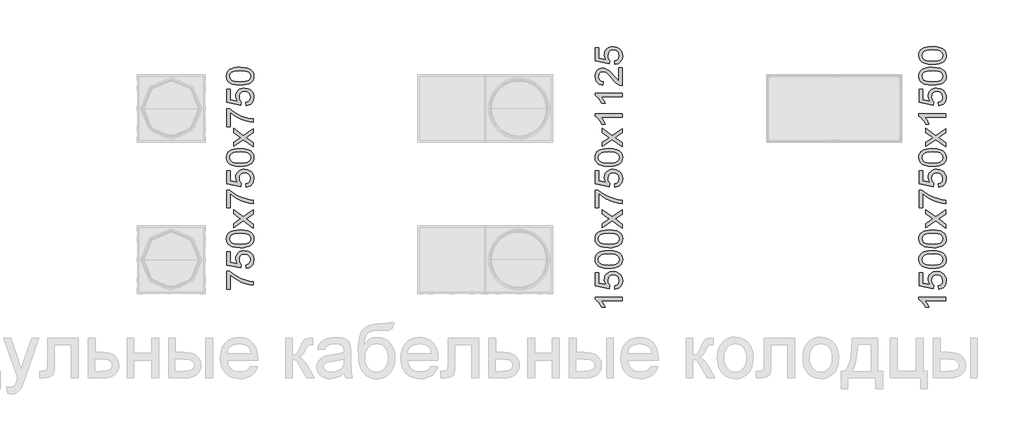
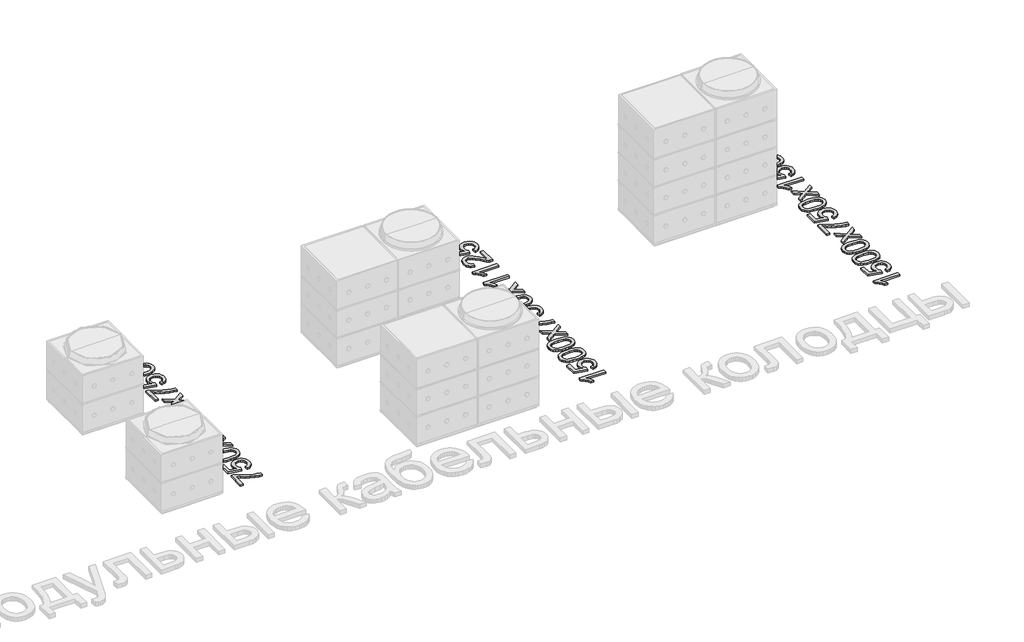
# One storey, part 3 of 3: 3 proxies.
"""IFC4 building model written with IfcOpenShell, lengths in millimetres."""

from ifc_helpers import new_model, si_unit, origin, origin_with_axes, place, context, project, spatial, polyline, outline, extrude, element, save

model = new_model("IFC4")

# Units and contexts
model_context = context("Model", 3, world=origin())
ifc_project = project(units=[si_unit("LENGTHUNIT", "METRE", prefix="MILLI")], contexts=[model_context])

# Site, building, storey
site = spatial("IfcSite", under=ifc_project)
building = spatial("IfcBuilding", under=site)
storey = spatial("IfcBuildingStorey", under=building, Name="Этаж 01", Elevation=0.0)

# Proxies
placement = place(None, origin())
element("IfcBuildingElementProxy", 1, Name="300 мм Arial 2", ObjectType="300 мм Arial 2", at=placement, inside=storey, context=model_context, shape_type="SweptSolid", body=[
    extrude(outline(polyline([(4874.6850037, -5520.3300285), (4837.0138874, -5520.3300285), (4837.0138874, -5322.5566679), (4867.4745166, -5322.5566679), (4903.1498731, -5350.7456258), (4948.5189202, -5378.6586722), (4999.4429853, -5403.2791747), (5051.7833962, -5421.590501), (5090.9444346, -5430.5668217), (5133.6739283, -5435.5700168), (5133.6739283, -5473.2411331), (5094.8439837, -5469.16684), (5048.6931875, -5458.2683359), (4999.7740791, -5440.8399264), (4952.6391985, -5417.1759171), (4910.0292664, -5389.5479792), (4874.6850037, -5360.2277842), (4874.6850037, -5520.3300285)])), origin_with_axes(), (0.0, 0.0, 1.0), 20.0),
    extrude(outline(polyline([(5053.6228062, -5289.5944411), (5048.9139166, -5251.9233248), (5071.5294623, -5245.0071433), (5087.7254671, -5232.9406139), (5097.465143, -5215.7789188), (5100.7117016, -5193.5772404), (5096.1959501, -5166.574702), (5082.6486956, -5146.3411922), (5061.6334366, -5133.7044457), (5034.7136716, -5129.4921968), (5009.3666022, -5133.4377312), (4989.979221, -5145.2743344), (4977.6735683, -5165.0939769), (4973.571684, -5192.9886292), (4975.2087589, -5211.2631673), (4980.1199836, -5226.0612206), (4997.1161317, -5247.2144353), (4992.4072422, -5284.8855516), (4837.0138874, -5251.9233248), (4837.0138874, -5105.9477492), (4874.6850037, -5105.9477492), (4874.6850037, -5221.4626956), (4957.6791818, -5237.575927), (4941.3452213, -5210.6653591), (4935.9005677, -5182.4672041), (4937.5882264, -5164.1213889), (4942.6512023, -5147.2700943), (4951.0894956, -5131.9133202), (4962.9031062, -5118.0510668), (4977.3700656, -5106.5754478), (4993.7684056, -5098.3785771), (5012.098126, -5093.4604547), (5032.3592269, -5091.8210805), (5070.0303432, -5097.7255866), (5086.8241563, -5105.1062191), (5102.2568059, -5115.4391046), (5118.0619362, -5131.0924835), (5129.3513149, -5149.3578246), (5136.1249421, -5170.2351278), (5138.3828179, -5193.7243932), (5132.5794794, -5230.7241249), (5125.3253063, -5246.4027956), (5115.169464, -5260.2006697), (5102.6177902, -5271.6808872), (5088.1761226, -5280.4065883), (5053.6228062, -5289.5944411)])), origin_with_axes(), (0.0, 0.0, 1.0), 20.0),
    extrude(outline(polyline([(4985.4174843, -5058.8588538), (4937.1789577, -5056.0905418), (4898.707698, -5047.7856057), (4869.4150942, -5034.0268191), (4848.7125349, -5014.8969553), (4836.4068821, -4990.2580587), (4832.3049979, -4959.9721735), (4834.7330191, -4936.7588196), (4842.0170826, -4915.9734868), (4853.8720799, -4898.5910626), (4870.0129024, -4885.586434), (4890.3015944, -4875.7639848), (4914.6002002, -4867.9280983), (4945.4563026, -4862.7961444), (4985.4174843, -4861.0854932), (5033.3800994, -4863.826214), (5071.7593885, -4872.0483766), (5101.0795836, -4885.7243898), (5121.8649163, -4904.8266624), (5134.2533425, -4929.5207413), (5138.3828179, -4959.9721735), (5136.5893931, -4980.720718), (5131.209119, -4999.1148178), (5122.2419953, -5015.1544727), (5109.6880223, -5028.839683), (5086.9943017, -5041.9730702), (5058.7179718, -5051.3540611), (5024.8590327, -5056.9826556), (4985.4174843, -5058.8588538)]), holes=[polyline([(4985.3439079, -5021.1877375), (5044.6005003, -5016.7731535), (5064.8684989, -5011.2549236), (5078.8962993, -5003.5294017), (5095.257851, -4983.8109268), (5100.7117016, -4959.9721735), (5095.2394569, -4936.1334202), (5078.8227229, -4916.4149452), (5064.7719299, -4908.6894233), (5044.5085298, -4903.1711934), (4985.3439079, -4898.7566095), (4927.4208877, -4903.0240406), (4907.2195677, -4908.3583295), (4892.8583743, -4915.826334), (4875.6966792, -4935.5080208), (4869.9761142, -4960.4136319), (4875.0160975, -4983.9948678), (4890.1360475, -5002.9407905), (4905.7710323, -5010.9238298), (4926.8506706, -5016.6260007), (4985.3439079, -5021.1877375)])]), origin_with_axes(), (0.0, 0.0, 1.0), 20.0),
    extrude(outline(polyline([(5133.6739283, -4842.249935), (5022.426413, -4761.7573545), (4912.35612, -4837.5410455), (4912.35612, -4792.2179837), (4965.3311273, -4755.6505133), (4990.347103, -4738.5807888), (4969.8928641, -4723.7919326), (4912.35612, -4682.1476907), (4912.35612, -4636.8246289), (5022.426413, -4716.4342927), (5133.6739283, -4639.7676849), (5133.6739283, -4685.0907467), (5066.7929816, -4731.2231489), (5054.5792994, -4739.6844348), (5133.6739283, -4796.9268732), (5133.6739283, -4842.249935)])), origin_with_axes(), (0.0, 0.0, 1.0), 20.0),
    extrude(outline(polyline([(4874.6850037, -4616.2232372), (4837.0138874, -4616.2232372), (4837.0138874, -4418.4498766), (4867.4745166, -4418.4498766), (4903.1498731, -4446.6388344), (4948.5189202, -4474.5518808), (4999.4429853, -4499.1723834), (5051.7833962, -4517.4837097), (5090.9444346, -4526.4600304), (5133.6739283, -4531.4632255), (5133.6739283, -4569.1343418), (5094.8439837, -4565.0600487), (5048.6931875, -4554.1615446), (4999.7740791, -4536.7331351), (4952.6391985, -4513.0691257), (4910.0292664, -4485.4411879), (4874.6850037, -4456.1209929), (4874.6850037, -4616.2232372)])), origin_with_axes(), (0.0, 0.0, 1.0), 20.0),
    extrude(outline(polyline([(5053.6228062, -4385.4876498), (5048.9139166, -4347.8165335), (5071.5294623, -4340.900352), (5087.7254671, -4328.8338225), (5097.465143, -4311.6721275), (5100.7117016, -4289.4704491), (5096.1959501, -4262.4679106), (5082.6486956, -4242.2344009), (5061.6334366, -4229.5976543), (5034.7136716, -4225.3854055), (5009.3666022, -4229.3309399), (4989.979221, -4241.1675431), (4977.6735683, -4260.9871856), (4973.571684, -4288.8818379), (4975.2087589, -4307.156376), (4980.1199836, -4321.9544292), (4997.1161317, -4343.107644), (4992.4072422, -4380.7787603), (4837.0138874, -4347.8165335), (4837.0138874, -4201.8409578), (4874.6850037, -4201.8409578), (4874.6850037, -4317.3559043), (4957.6791818, -4333.4691357), (4941.3452213, -4306.5585677), (4935.9005677, -4278.3604128), (4937.5882264, -4260.0145976), (4942.6512023, -4243.1633029), (4951.0894956, -4227.8065289), (4962.9031062, -4213.9442754), (4977.3700656, -4202.4686565), (4993.7684056, -4194.2717858), (5012.098126, -4189.3536633), (5032.3592269, -4187.7142892), (5070.0303432, -4193.6187952), (5086.8241563, -4200.9994277), (5102.2568059, -4211.3323133), (5118.0619362, -4226.9856922), (5129.3513149, -4245.2510332), (5136.1249421, -4266.1283365), (5138.3828179, -4289.6176019), (5132.5794794, -4326.6173335), (5125.3253063, -4342.2960043), (5115.169464, -4356.0938784), (5102.6177902, -4367.5740959), (5088.1761226, -4376.299797), (5053.6228062, -4385.4876498)])), origin_with_axes(), (0.0, 0.0, 1.0), 20.0),
    extrude(outline(polyline([(4985.4174843, -4154.7520624), (4937.1789577, -4151.9837504), (4898.707698, -4143.6788144), (4869.4150942, -4129.9200277), (4848.7125349, -4110.790164), (4836.4068821, -4086.1512674), (4832.3049979, -4055.8653821), (4834.7330191, -4032.6520282), (4842.0170826, -4011.8666955), (4853.8720799, -3994.4842712), (4870.0129024, -3981.4796427), (4890.3015944, -3971.6571934), (4914.6002002, -3963.8213069), (4945.4563026, -3958.6893531), (4985.4174843, -3956.9787018), (5033.3800994, -3959.7194227), (5071.7593885, -3967.9415853), (5101.0795836, -3981.6175984), (5121.8649163, -4000.719871), (5134.2533425, -4025.41395), (5138.3828179, -4055.8653821), (5136.5893931, -4076.6139266), (5131.209119, -4095.0080264), (5122.2419953, -4111.0476814), (5109.6880223, -4124.7328916), (5086.9943017, -4137.8662788), (5058.7179718, -4147.2472697), (5024.8590327, -4152.8758642), (4985.4174843, -4154.7520624)]), holes=[polyline([(4985.3439079, -4117.0809461), (5044.6005003, -4112.6663622), (5064.8684989, -4107.1481322), (5078.8962993, -4099.4226103), (5095.257851, -4079.7041354), (5100.7117016, -4055.8653821), (5095.2394569, -4032.0266288), (5078.8227229, -4012.3081539), (5064.7719299, -4004.582632), (5044.5085298, -3999.0644021), (4985.3439079, -3994.6498181), (4927.4208877, -3998.9172493), (4907.2195677, -4004.2515382), (4892.8583743, -4011.7195427), (4875.6966792, -4031.4012294), (4869.9761142, -4056.3068405), (4875.0160975, -4079.8880764), (4890.1360475, -4098.8339992), (4905.7710323, -4106.8170385), (4926.8506706, -4112.5192094), (4985.3439079, -4117.0809461)])]), origin_with_axes(), (0.0, 0.0, 1.0), 20.0),
    extrude(outline(polyline([(5133.6739283, -3938.1431437), (5022.426413, -3857.6505631), (4912.35612, -3933.4342541), (4912.35612, -3888.1111923), (4965.3311273, -3851.543722), (4990.347103, -3834.4739974), (4969.8928641, -3819.6851412), (4912.35612, -3778.0408994), (4912.35612, -3732.7178376), (5022.426413, -3812.3275013), (5133.6739283, -3735.6608935), (5133.6739283, -3780.9839553), (5066.7929816, -3827.1163575), (5054.5792994, -3835.5776434), (5133.6739283, -3892.8200819), (5133.6739283, -3938.1431437)])), origin_with_axes(), (0.0, 0.0, 1.0), 20.0),
    extrude(outline(polyline([(4874.6850037, -3712.1164458), (4837.0138874, -3712.1164458), (4837.0138874, -3514.3430852), (4867.4745166, -3514.3430852), (4903.1498731, -3542.5320431), (4948.5189202, -3570.4450895), (4999.4429853, -3595.065592), (5051.7833962, -3613.3769183), (5090.9444346, -3622.353239), (5133.6739283, -3627.3564341), (5133.6739283, -3665.0275504), (5094.8439837, -3660.9532573), (5048.6931875, -3650.0547532), (4999.7740791, -3632.6263437), (4952.6391985, -3608.9623344), (4910.0292664, -3581.3343965), (4874.6850037, -3552.0142015), (4874.6850037, -3712.1164458)])), origin_with_axes(), (0.0, 0.0, 1.0), 20.0),
    extrude(outline(polyline([(5053.6228062, -3481.3808585), (5048.9139166, -3443.7097421), (5071.5294623, -3436.7935606), (5087.7254671, -3424.7270312), (5097.465143, -3407.5653361), (5100.7117016, -3385.3636577), (5096.1959501, -3358.3611193), (5082.6486956, -3338.1276095), (5061.6334366, -3325.490863), (5034.7136716, -3321.2786142), (5009.3666022, -3325.2241485), (4989.979221, -3337.0607517), (4977.6735683, -3356.8803942), (4973.571684, -3384.7750465), (4975.2087589, -3403.0495846), (4980.1199836, -3417.8476379), (4997.1161317, -3439.0008526), (4992.4072422, -3476.6719689), (4837.0138874, -3443.7097421), (4837.0138874, -3297.7341665), (4874.6850037, -3297.7341665), (4874.6850037, -3413.2491129), (4957.6791818, -3429.3623443), (4941.3452213, -3402.4517764), (4935.9005677, -3374.2536215), (4937.5882264, -3355.9078062), (4942.6512023, -3339.0565116), (4951.0894956, -3323.6997375), (4962.9031062, -3309.8374841), (4977.3700656, -3298.3618651), (4993.7684056, -3290.1649944), (5012.098126, -3285.246872), (5032.3592269, -3283.6074978), (5070.0303432, -3289.5120039), (5086.8241563, -3296.8926364), (5102.2568059, -3307.2255219), (5118.0619362, -3322.8789008), (5129.3513149, -3341.1442419), (5136.1249421, -3362.0215451), (5138.3828179, -3385.5108105), (5132.5794794, -3422.5105422), (5125.3253063, -3438.189213), (5115.169464, -3451.987087), (5102.6177902, -3463.4673045), (5088.1761226, -3472.1930056), (5053.6228062, -3481.3808585)])), origin_with_axes(), (0.0, 0.0, 1.0), 20.0),
    extrude(outline(polyline([(4985.4174843, -3250.6452711), (4937.1789577, -3247.8769591), (4898.707698, -3239.572023), (4869.4150942, -3225.8132364), (4848.7125349, -3206.6833727), (4836.4068821, -3182.044476), (4832.3049979, -3151.7585908), (4834.7330191, -3128.5452369), (4842.0170826, -3107.7599042), (4853.8720799, -3090.3774799), (4870.0129024, -3077.3728513), (4890.3015944, -3067.5504021), (4914.6002002, -3059.7145156), (4945.4563026, -3054.5825617), (4985.4174843, -3052.8719105), (5033.3800994, -3055.6126313), (5071.7593885, -3063.8347939), (5101.0795836, -3077.5108071), (5121.8649163, -3096.6130797), (5134.2533425, -3121.3071586), (5138.3828179, -3151.7585908), (5136.5893931, -3172.5071353), (5131.209119, -3190.9012351), (5122.2419953, -3206.9408901), (5109.6880223, -3220.6261003), (5086.9943017, -3233.7594875), (5058.7179718, -3243.1404784), (5024.8590327, -3248.7690729), (4985.4174843, -3250.6452711)]), holes=[polyline([(4985.3439079, -3212.9741548), (5044.6005003, -3208.5595708), (5064.8684989, -3203.0413409), (5078.8962993, -3195.315819), (5095.257851, -3175.5973441), (5100.7117016, -3151.7585908), (5095.2394569, -3127.9198375), (5078.8227229, -3108.2013625), (5064.7719299, -3100.4758406), (5044.5085298, -3094.9576107), (4985.3439079, -3090.5430268), (4927.4208877, -3094.8104579), (4907.2195677, -3100.1447469), (4892.8583743, -3107.6127514), (4875.6966792, -3127.2944381), (4869.9761142, -3152.2000492), (4875.0160975, -3175.7812851), (4890.1360475, -3194.7272078), (4905.7710323, -3202.7102471), (4926.8506706, -3208.412418), (4985.3439079, -3212.9741548)])]), origin_with_axes(), (0.0, 0.0, 1.0), 20.0),
])
element("IfcBuildingElementProxy", 2, Name="300 мм Arial 2", ObjectType="300 мм Arial 2", at=placement, inside=storey, context=model_context, shape_type="SweptSolid", body=[
    extrude(outline(polyline([(9233.6739283, -5609.7989297), (9233.6739283, -5647.4700461), (8998.8180626, -5647.4700461), (9024.2387085, -5683.1545996), (9043.2582076, -5722.8122787), (9007.6472305, -5722.8122787), (8991.5523932, -5693.2253692), (8972.4041354, -5667.5931912), (8952.0418669, -5647.3872726), (8932.3049979, -5634.0791414), (8932.3049979, -5609.7989297), (9233.6739283, -5609.7989297)])), origin_with_axes(), (0.0, 0.0, 1.0), 20.0),
    extrude(outline(polyline([(9153.6228062, -5520.3300285), (9148.9139166, -5482.6589122), (9171.5294623, -5475.7427307), (9187.7254671, -5463.6762013), (9197.465143, -5446.5145062), (9200.7117016, -5424.3128278), (9196.1959501, -5397.3102893), (9182.6486956, -5377.0767796), (9161.6334366, -5364.4400331), (9134.7136716, -5360.2277842), (9109.3666022, -5364.1733186), (9089.979221, -5376.0099218), (9077.6735683, -5395.8295643), (9073.571684, -5423.7242166), (9075.2087589, -5441.9987547), (9080.1199836, -5456.796808), (9097.1161317, -5477.9500227), (9092.4072422, -5515.621139), (8937.0138874, -5482.6589122), (8937.0138874, -5336.6833365), (8974.6850037, -5336.6833365), (8974.6850037, -5452.198283), (9057.6791818, -5468.3115144), (9041.3452213, -5441.4009465), (9035.9005677, -5413.2027915), (9037.5882264, -5394.8569763), (9042.6512023, -5378.0056816), (9051.0894956, -5362.6489076), (9062.9031062, -5348.7866542), (9077.3700656, -5337.3110352), (9093.7684056, -5329.1141645), (9112.098126, -5324.1960421), (9132.3592269, -5322.5566679), (9170.0303432, -5328.4611739), (9186.8241563, -5335.8418065), (9202.2568059, -5346.174692), (9218.0619362, -5361.8280709), (9229.3513149, -5380.093412), (9236.1249421, -5400.9707152), (9238.3828179, -5424.4599806), (9232.5794794, -5461.4597122), (9225.3253063, -5477.138383), (9215.169464, -5490.9362571), (9202.6177902, -5502.4164746), (9188.1761226, -5511.1421757), (9153.6228062, -5520.3300285)])), origin_with_axes(), (0.0, 0.0, 1.0), 20.0),
    extrude(outline(polyline([(9085.4174843, -5289.5944411), (9037.1789577, -5286.8261291), (8998.707698, -5278.5211931), (8969.4150942, -5264.7624065), (8948.7125349, -5245.6325427), (8936.4068821, -5220.9936461), (8932.3049979, -5190.7077608), (8934.7330191, -5167.4944069), (8942.0170826, -5146.7090742), (8953.8720799, -5129.3266499), (8970.0129024, -5116.3220214), (8990.3015944, -5106.4995721), (9014.6002002, -5098.6636856), (9045.4563026, -5093.5317318), (9085.4174843, -5091.8210805), (9133.3800994, -5094.5618014), (9171.7593885, -5102.783964), (9201.0795836, -5116.4599772), (9221.8649163, -5135.5622498), (9234.2533425, -5160.2563287), (9238.3828179, -5190.7077608), (9236.5893931, -5211.4563054), (9231.209119, -5229.8504051), (9222.2419953, -5245.8900601), (9209.6880223, -5259.5752703), (9186.9943017, -5272.7086576), (9158.7179718, -5282.0896484), (9124.8590327, -5287.718243), (9085.4174843, -5289.5944411)]), holes=[polyline([(9085.3439079, -5251.9233248), (9144.6005003, -5247.5087409), (9164.8684989, -5241.990511), (9178.8962993, -5234.2649891), (9195.257851, -5214.5465141), (9200.7117016, -5190.7077608), (9195.2394569, -5166.8690076), (9178.8227229, -5147.1505326), (9164.7719299, -5139.4250107), (9144.5085298, -5133.9067808), (9085.3439079, -5129.4921968), (9027.4208877, -5133.759628), (9007.2195677, -5139.0939169), (8992.8583743, -5146.5619214), (8975.6966792, -5166.2436082), (8969.9761142, -5191.1492192), (8975.0160975, -5214.7304551), (8990.1360475, -5233.6763779), (9005.7710323, -5241.6594172), (9026.8506706, -5247.3615881), (9085.3439079, -5251.9233248)])]), origin_with_axes(), (0.0, 0.0, 1.0), 20.0),
    extrude(outline(polyline([(9085.4174843, -5058.8588538), (9037.1789577, -5056.0905418), (8998.707698, -5047.7856057), (8969.4150942, -5034.0268191), (8948.7125349, -5014.8969553), (8936.4068821, -4990.2580587), (8932.3049979, -4959.9721735), (8934.7330191, -4936.7588196), (8942.0170826, -4915.9734868), (8953.8720799, -4898.5910626), (8970.0129024, -4885.586434), (8990.3015944, -4875.7639848), (9014.6002002, -4867.9280983), (9045.4563026, -4862.7961444), (9085.4174843, -4861.0854932), (9133.3800994, -4863.826214), (9171.7593885, -4872.0483766), (9201.0795836, -4885.7243898), (9221.8649163, -4904.8266624), (9234.2533425, -4929.5207413), (9238.3828179, -4959.9721735), (9236.5893931, -4980.720718), (9231.209119, -4999.1148178), (9222.2419953, -5015.1544727), (9209.6880223, -5028.839683), (9186.9943017, -5041.9730702), (9158.7179718, -5051.3540611), (9124.8590327, -5056.9826556), (9085.4174843, -5058.8588538)]), holes=[polyline([(9085.3439079, -5021.1877375), (9144.6005003, -5016.7731535), (9164.8684989, -5011.2549236), (9178.8962993, -5003.5294017), (9195.257851, -4983.8109268), (9200.7117016, -4959.9721735), (9195.2394569, -4936.1334202), (9178.8227229, -4916.4149452), (9164.7719299, -4908.6894233), (9144.5085298, -4903.1711934), (9085.3439079, -4898.7566095), (9027.4208877, -4903.0240406), (9007.2195677, -4908.3583295), (8992.8583743, -4915.826334), (8975.6966792, -4935.5080208), (8969.9761142, -4960.4136319), (8975.0160975, -4983.9948678), (8990.1360475, -5002.9407905), (9005.7710323, -5010.9238298), (9026.8506706, -5016.6260007), (9085.3439079, -5021.1877375)])]), origin_with_axes(), (0.0, 0.0, 1.0), 20.0),
    extrude(outline(polyline([(9233.6739283, -4842.249935), (9122.426413, -4761.7573545), (9012.35612, -4837.5410455), (9012.35612, -4792.2179837), (9065.3311273, -4755.6505133), (9090.347103, -4738.5807888), (9069.8928641, -4723.7919326), (9012.35612, -4682.1476907), (9012.35612, -4636.8246289), (9122.426413, -4716.4342927), (9233.6739283, -4639.7676849), (9233.6739283, -4685.0907467), (9166.7929816, -4731.2231489), (9154.5792994, -4739.6844348), (9233.6739283, -4796.9268732), (9233.6739283, -4842.249935)])), origin_with_axes(), (0.0, 0.0, 1.0), 20.0),
    extrude(outline(polyline([(8974.6850037, -4616.2232372), (8937.0138874, -4616.2232372), (8937.0138874, -4418.4498766), (8967.4745166, -4418.4498766), (9003.1498731, -4446.6388344), (9048.5189202, -4474.5518808), (9099.4429853, -4499.1723834), (9151.7833962, -4517.4837097), (9190.9444346, -4526.4600304), (9233.6739283, -4531.4632255), (9233.6739283, -4569.1343418), (9194.8439837, -4565.0600487), (9148.6931875, -4554.1615446), (9099.7740791, -4536.7331351), (9052.6391985, -4513.0691257), (9010.0292664, -4485.4411879), (8974.6850037, -4456.1209929), (8974.6850037, -4616.2232372)])), origin_with_axes(), (0.0, 0.0, 1.0), 20.0),
    extrude(outline(polyline([(9153.6228062, -4385.4876498), (9148.9139166, -4347.8165335), (9171.5294623, -4340.900352), (9187.7254671, -4328.8338225), (9197.465143, -4311.6721275), (9200.7117016, -4289.4704491), (9196.1959501, -4262.4679106), (9182.6486956, -4242.2344009), (9161.6334366, -4229.5976543), (9134.7136716, -4225.3854055), (9109.3666022, -4229.3309399), (9089.979221, -4241.1675431), (9077.6735683, -4260.9871856), (9073.571684, -4288.8818379), (9075.2087589, -4307.156376), (9080.1199836, -4321.9544292), (9097.1161317, -4343.107644), (9092.4072422, -4380.7787603), (8937.0138874, -4347.8165335), (8937.0138874, -4201.8409578), (8974.6850037, -4201.8409578), (8974.6850037, -4317.3559043), (9057.6791818, -4333.4691357), (9041.3452213, -4306.5585677), (9035.9005677, -4278.3604128), (9037.5882264, -4260.0145976), (9042.6512023, -4243.1633029), (9051.0894956, -4227.8065289), (9062.9031062, -4213.9442754), (9077.3700656, -4202.4686565), (9093.7684056, -4194.2717858), (9112.098126, -4189.3536633), (9132.3592269, -4187.7142892), (9170.0303432, -4193.6187952), (9186.8241563, -4200.9994277), (9202.2568059, -4211.3323133), (9218.0619362, -4226.9856922), (9229.3513149, -4245.2510332), (9236.1249421, -4266.1283365), (9238.3828179, -4289.6176019), (9232.5794794, -4326.6173335), (9225.3253063, -4342.2960043), (9215.169464, -4356.0938784), (9202.6177902, -4367.5740959), (9188.1761226, -4376.299797), (9153.6228062, -4385.4876498)])), origin_with_axes(), (0.0, 0.0, 1.0), 20.0),
    extrude(outline(polyline([(9085.4174843, -4154.7520624), (9037.1789577, -4151.9837504), (8998.707698, -4143.6788144), (8969.4150942, -4129.9200277), (8948.7125349, -4110.790164), (8936.4068821, -4086.1512674), (8932.3049979, -4055.8653821), (8934.7330191, -4032.6520282), (8942.0170826, -4011.8666955), (8953.8720799, -3994.4842712), (8970.0129024, -3981.4796427), (8990.3015944, -3971.6571934), (9014.6002002, -3963.8213069), (9045.4563026, -3958.6893531), (9085.4174843, -3956.9787018), (9133.3800994, -3959.7194227), (9171.7593885, -3967.9415853), (9201.0795836, -3981.6175984), (9221.8649163, -4000.719871), (9234.2533425, -4025.41395), (9238.3828179, -4055.8653821), (9236.5893931, -4076.6139266), (9231.209119, -4095.0080264), (9222.2419953, -4111.0476814), (9209.6880223, -4124.7328916), (9186.9943017, -4137.8662788), (9158.7179718, -4147.2472697), (9124.8590327, -4152.8758642), (9085.4174843, -4154.7520624)]), holes=[polyline([(9085.3439079, -4117.0809461), (9144.6005003, -4112.6663622), (9164.8684989, -4107.1481322), (9178.8962993, -4099.4226103), (9195.257851, -4079.7041354), (9200.7117016, -4055.8653821), (9195.2394569, -4032.0266288), (9178.8227229, -4012.3081539), (9164.7719299, -4004.582632), (9144.5085298, -3999.0644021), (9085.3439079, -3994.6498181), (9027.4208877, -3998.9172493), (9007.2195677, -4004.2515382), (8992.8583743, -4011.7195427), (8975.6966792, -4031.4012294), (8969.9761142, -4056.3068405), (8975.0160975, -4079.8880764), (8990.1360475, -4098.8339992), (9005.7710323, -4106.8170385), (9026.8506706, -4112.5192094), (9085.3439079, -4117.0809461)])]), origin_with_axes(), (0.0, 0.0, 1.0), 20.0),
    extrude(outline(polyline([(9233.6739283, -3938.1431437), (9122.426413, -3857.6505631), (9012.35612, -3933.4342541), (9012.35612, -3888.1111923), (9065.3311273, -3851.543722), (9090.347103, -3834.4739974), (9069.8928641, -3819.6851412), (9012.35612, -3778.0408994), (9012.35612, -3732.7178376), (9122.426413, -3812.3275013), (9233.6739283, -3735.6608935), (9233.6739283, -3780.9839553), (9166.7929816, -3827.1163575), (9154.5792994, -3835.5776434), (9233.6739283, -3892.8200819), (9233.6739283, -3938.1431437)])), origin_with_axes(), (0.0, 0.0, 1.0), 20.0),
    extrude(outline(polyline([(9233.6739283, -3570.8497597), (9233.6739283, -3608.520876), (8998.8180626, -3608.520876), (9024.2387085, -3644.2054295), (9043.2582076, -3683.8631086), (9007.6472305, -3683.8631086), (8991.5523932, -3654.2761991), (8972.4041354, -3628.6440211), (8952.0418669, -3608.4381025), (8932.3049979, -3595.1299714), (8932.3049979, -3570.8497597), (9233.6739283, -3570.8497597)])), origin_with_axes(), (0.0, 0.0, 1.0), 20.0),
    extrude(outline(polyline([(9233.6739283, -3340.1141723), (9233.6739283, -3377.7852886), (8998.8180626, -3377.7852886), (9024.2387085, -3413.4698421), (9043.2582076, -3453.1275212), (9007.6472305, -3453.1275212), (8991.5523932, -3423.5406118), (8972.4041354, -3397.9084337), (8952.0418669, -3377.7025152), (8932.3049979, -3364.394384), (8932.3049979, -3340.1141723), (9233.6739283, -3340.1141723)])), origin_with_axes(), (0.0, 0.0, 1.0), 20.0),
    extrude(outline(polyline([(9196.002812, -3057.5808), (9233.6739283, -3057.5808), (9233.6739283, -3255.3541606), (9207.7014595, -3251.3074587), (9187.4035704, -3242.0184383), (9167.7126866, -3228.4251986), (9147.1020978, -3208.7619059), (9124.0450938, -3181.2627268), (9087.9374759, -3140.6117663), (9061.2844254, -3116.22119), (9039.6529641, -3104.0259019), (9018.610114, -3099.9608059), (8999.7469647, -3103.7959757), (8984.0659946, -3115.3014851), (8973.4985843, -3132.987412), (8969.9761142, -3155.3638343), (8973.4158109, -3178.8622968), (8983.7349008, -3197.1184408), (9000.1240437, -3208.8998617), (9021.7738991, -3212.9741548), (9017.0650096, -3250.6452711), (8980.626298, -3241.5126005), (8966.0903606, -3232.9662419), (8954.0100356, -3221.7665345), (8944.5140816, -3208.1709955), (8937.7312573, -3192.4371424), (8932.3049979, -3154.5544939), (8933.8133141, -3134.3646702), (8938.3382626, -3116.395934), (8945.8798435, -3100.6482853), (8956.4380568, -3087.1217242), (8969.2311532, -3076.2577091), (8983.4773834, -3068.4976982), (8999.1767476, -3063.8416917), (9016.3292456, -3062.2896895), (9034.3462663, -3063.9635526), (9052.0505873, -3068.9851419), (9070.058411, -3077.8970832), (9088.9859396, -3091.2420026), (9111.5830912, -3112.5147789), (9140.5997836, -3145.2102913), (9176.8361601, -3188.5467903), (9196.002812, -3205.5429385), (9196.002812, -3057.5808)])), origin_with_axes(), (0.0, 0.0, 1.0), 20.0),
    extrude(outline(polyline([(9153.6228062, -3019.9096837), (9148.9139166, -2982.2385674), (9171.5294623, -2975.3223859), (9187.7254671, -2963.2558564), (9197.465143, -2946.0941614), (9200.7117016, -2923.892483), (9196.1959501, -2896.8899445), (9182.6486956, -2876.6564348), (9161.6334366, -2864.0196882), (9134.7136716, -2859.8074394), (9109.3666022, -2863.7529738), (9089.979221, -2875.589577), (9077.6735683, -2895.4092195), (9073.571684, -2923.3038718), (9075.2087589, -2941.5784099), (9080.1199836, -2956.3764631), (9097.1161317, -2977.5296779), (9092.4072422, -3015.2007942), (8937.0138874, -2982.2385674), (8937.0138874, -2836.2629917), (8974.6850037, -2836.2629917), (8974.6850037, -2951.7779382), (9057.6791818, -2967.8911696), (9041.3452213, -2940.9806016), (9035.9005677, -2912.7824467), (9037.5882264, -2894.4366315), (9042.6512023, -2877.5853368), (9051.0894956, -2862.2285628), (9062.9031062, -2848.3663094), (9077.3700656, -2836.8906904), (9093.7684056, -2828.6938197), (9112.098126, -2823.7756972), (9132.3592269, -2822.1363231), (9170.0303432, -2828.0408291), (9186.8241563, -2835.4214616), (9202.2568059, -2845.7543472), (9218.0619362, -2861.4077261), (9229.3513149, -2879.6730671), (9236.1249421, -2900.5503704), (9238.3828179, -2924.0396358), (9232.5794794, -2961.0393674), (9225.3253063, -2976.7180382), (9215.169464, -2990.5159123), (9202.6177902, -3001.9961298), (9188.1761226, -3010.7218309), (9153.6228062, -3019.9096837)])), origin_with_axes(), (0.0, 0.0, 1.0), 20.0),
])
element("IfcBuildingElementProxy", 3, Name="300 мм Arial 2", ObjectType="300 мм Arial 2", at=placement, inside=storey, context=model_context, shape_type="SweptSolid", body=[
    extrude(outline(polyline([(12833.6739283, -5609.7989297), (12833.6739283, -5647.4700461), (12598.8180626, -5647.4700461), (12624.2387085, -5683.1545996), (12643.2582076, -5722.8122787), (12607.6472305, -5722.8122787), (12591.5523932, -5693.2253692), (12572.4041354, -5667.5931912), (12552.0418669, -5647.3872726), (12532.3049979, -5634.0791414), (12532.3049979, -5609.7989297), (12833.6739283, -5609.7989297)])), origin_with_axes(), (0.0, 0.0, 1.0), 20.0),
    extrude(outline(polyline([(12753.6228062, -5520.3300285), (12748.9139166, -5482.6589122), (12771.5294623, -5475.7427307), (12787.7254671, -5463.6762013), (12797.465143, -5446.5145062), (12800.7117016, -5424.3128278), (12796.1959501, -5397.3102893), (12782.6486956, -5377.0767796), (12761.6334366, -5364.4400331), (12734.7136716, -5360.2277842), (12709.3666022, -5364.1733186), (12689.979221, -5376.0099218), (12677.6735683, -5395.8295643), (12673.571684, -5423.7242166), (12675.2087589, -5441.9987547), (12680.1199836, -5456.796808), (12697.1161317, -5477.9500227), (12692.4072422, -5515.621139), (12537.0138874, -5482.6589122), (12537.0138874, -5336.6833365), (12574.6850037, -5336.6833365), (12574.6850037, -5452.198283), (12657.6791818, -5468.3115144), (12641.3452213, -5441.4009465), (12635.9005677, -5413.2027915), (12637.5882264, -5394.8569763), (12642.6512023, -5378.0056816), (12651.0894956, -5362.6489076), (12662.9031062, -5348.7866542), (12677.3700656, -5337.3110352), (12693.7684056, -5329.1141645), (12712.098126, -5324.1960421), (12732.3592269, -5322.5566679), (12770.0303432, -5328.4611739), (12786.8241563, -5335.8418065), (12802.2568059, -5346.174692), (12818.0619362, -5361.8280709), (12829.3513149, -5380.093412), (12836.1249421, -5400.9707152), (12838.3828179, -5424.4599806), (12832.5794794, -5461.4597122), (12825.3253063, -5477.138383), (12815.169464, -5490.9362571), (12802.6177902, -5502.4164746), (12788.1761226, -5511.1421757), (12753.6228062, -5520.3300285)])), origin_with_axes(), (0.0, 0.0, 1.0), 20.0),
    extrude(outline(polyline([(12685.4174843, -5289.5944411), (12637.1789577, -5286.8261291), (12598.707698, -5278.5211931), (12569.4150942, -5264.7624065), (12548.7125349, -5245.6325427), (12536.4068821, -5220.9936461), (12532.3049979, -5190.7077608), (12534.7330191, -5167.4944069), (12542.0170826, -5146.7090742), (12553.8720799, -5129.3266499), (12570.0129024, -5116.3220214), (12590.3015944, -5106.4995721), (12614.6002002, -5098.6636856), (12645.4563026, -5093.5317318), (12685.4174843, -5091.8210805), (12733.3800994, -5094.5618014), (12771.7593885, -5102.783964), (12801.0795836, -5116.4599772), (12821.8649163, -5135.5622498), (12834.2533425, -5160.2563287), (12838.3828179, -5190.7077608), (12836.5893931, -5211.4563054), (12831.209119, -5229.8504051), (12822.2419953, -5245.8900601), (12809.6880223, -5259.5752703), (12786.9943017, -5272.7086576), (12758.7179718, -5282.0896484), (12724.8590327, -5287.718243), (12685.4174843, -5289.5944411)]), holes=[polyline([(12685.3439079, -5251.9233248), (12744.6005003, -5247.5087409), (12764.8684989, -5241.990511), (12778.8962993, -5234.2649891), (12795.257851, -5214.5465141), (12800.7117016, -5190.7077608), (12795.2394569, -5166.8690076), (12778.8227229, -5147.1505326), (12764.7719299, -5139.4250107), (12744.5085298, -5133.9067808), (12685.3439079, -5129.4921968), (12627.4208877, -5133.759628), (12607.2195677, -5139.0939169), (12592.8583743, -5146.5619214), (12575.6966792, -5166.2436082), (12569.9761142, -5191.1492192), (12575.0160975, -5214.7304551), (12590.1360475, -5233.6763779), (12605.7710323, -5241.6594172), (12626.8506706, -5247.3615881), (12685.3439079, -5251.9233248)])]), origin_with_axes(), (0.0, 0.0, 1.0), 20.0),
    extrude(outline(polyline([(12685.4174843, -5058.8588538), (12637.1789577, -5056.0905418), (12598.707698, -5047.7856057), (12569.4150942, -5034.0268191), (12548.7125349, -5014.8969553), (12536.4068821, -4990.2580587), (12532.3049979, -4959.9721735), (12534.7330191, -4936.7588196), (12542.0170826, -4915.9734868), (12553.8720799, -4898.5910626), (12570.0129024, -4885.586434), (12590.3015944, -4875.7639848), (12614.6002002, -4867.9280983), (12645.4563026, -4862.7961444), (12685.4174843, -4861.0854932), (12733.3800994, -4863.826214), (12771.7593885, -4872.0483766), (12801.0795836, -4885.7243898), (12821.8649163, -4904.8266624), (12834.2533425, -4929.5207413), (12838.3828179, -4959.9721735), (12836.5893931, -4980.720718), (12831.209119, -4999.1148178), (12822.2419953, -5015.1544727), (12809.6880223, -5028.839683), (12786.9943017, -5041.9730702), (12758.7179718, -5051.3540611), (12724.8590327, -5056.9826556), (12685.4174843, -5058.8588538)]), holes=[polyline([(12685.3439079, -5021.1877375), (12744.6005003, -5016.7731535), (12764.8684989, -5011.2549236), (12778.8962993, -5003.5294017), (12795.257851, -4983.8109268), (12800.7117016, -4959.9721735), (12795.2394569, -4936.1334202), (12778.8227229, -4916.4149452), (12764.7719299, -4908.6894233), (12744.5085298, -4903.1711934), (12685.3439079, -4898.7566095), (12627.4208877, -4903.0240406), (12607.2195677, -4908.3583295), (12592.8583743, -4915.826334), (12575.6966792, -4935.5080208), (12569.9761142, -4960.4136319), (12575.0160975, -4983.9948678), (12590.1360475, -5002.9407905), (12605.7710323, -5010.9238298), (12626.8506706, -5016.6260007), (12685.3439079, -5021.1877375)])]), origin_with_axes(), (0.0, 0.0, 1.0), 20.0),
    extrude(outline(polyline([(12833.6739283, -4842.249935), (12722.426413, -4761.7573545), (12612.35612, -4837.5410455), (12612.35612, -4792.2179837), (12665.3311273, -4755.6505133), (12690.347103, -4738.5807888), (12669.8928641, -4723.7919326), (12612.35612, -4682.1476907), (12612.35612, -4636.8246289), (12722.426413, -4716.4342927), (12833.6739283, -4639.7676849), (12833.6739283, -4685.0907467), (12766.7929816, -4731.2231489), (12754.5792994, -4739.6844348), (12833.6739283, -4796.9268732), (12833.6739283, -4842.249935)])), origin_with_axes(), (0.0, 0.0, 1.0), 20.0),
    extrude(outline(polyline([(12574.6850037, -4616.2232372), (12537.0138874, -4616.2232372), (12537.0138874, -4418.4498766), (12567.4745166, -4418.4498766), (12603.1498731, -4446.6388344), (12648.5189202, -4474.5518808), (12699.4429853, -4499.1723834), (12751.7833962, -4517.4837097), (12790.9444346, -4526.4600304), (12833.6739283, -4531.4632255), (12833.6739283, -4569.1343418), (12794.8439837, -4565.0600487), (12748.6931875, -4554.1615446), (12699.7740791, -4536.7331351), (12652.6391985, -4513.0691257), (12610.0292664, -4485.4411879), (12574.6850037, -4456.1209929), (12574.6850037, -4616.2232372)])), origin_with_axes(), (0.0, 0.0, 1.0), 20.0),
    extrude(outline(polyline([(12753.6228062, -4385.4876498), (12748.9139166, -4347.8165335), (12771.5294623, -4340.900352), (12787.7254671, -4328.8338225), (12797.465143, -4311.6721275), (12800.7117016, -4289.4704491), (12796.1959501, -4262.4679106), (12782.6486956, -4242.2344009), (12761.6334366, -4229.5976543), (12734.7136716, -4225.3854055), (12709.3666022, -4229.3309399), (12689.979221, -4241.1675431), (12677.6735683, -4260.9871856), (12673.571684, -4288.8818379), (12675.2087589, -4307.156376), (12680.1199836, -4321.9544292), (12697.1161317, -4343.107644), (12692.4072422, -4380.7787603), (12537.0138874, -4347.8165335), (12537.0138874, -4201.8409578), (12574.6850037, -4201.8409578), (12574.6850037, -4317.3559043), (12657.6791818, -4333.4691357), (12641.3452213, -4306.5585677), (12635.9005677, -4278.3604128), (12637.5882264, -4260.0145976), (12642.6512023, -4243.1633029), (12651.0894956, -4227.8065289), (12662.9031062, -4213.9442754), (12677.3700656, -4202.4686565), (12693.7684056, -4194.2717858), (12712.098126, -4189.3536633), (12732.3592269, -4187.7142892), (12770.0303432, -4193.6187952), (12786.8241563, -4200.9994277), (12802.2568059, -4211.3323133), (12818.0619362, -4226.9856922), (12829.3513149, -4245.2510332), (12836.1249421, -4266.1283365), (12838.3828179, -4289.6176019), (12832.5794794, -4326.6173335), (12825.3253063, -4342.2960043), (12815.169464, -4356.0938784), (12802.6177902, -4367.5740959), (12788.1761226, -4376.299797), (12753.6228062, -4385.4876498)])), origin_with_axes(), (0.0, 0.0, 1.0), 20.0),
    extrude(outline(polyline([(12685.4174843, -4154.7520624), (12637.1789577, -4151.9837504), (12598.707698, -4143.6788144), (12569.4150942, -4129.9200277), (12548.7125349, -4110.790164), (12536.4068821, -4086.1512674), (12532.3049979, -4055.8653821), (12534.7330191, -4032.6520282), (12542.0170826, -4011.8666955), (12553.8720799, -3994.4842712), (12570.0129024, -3981.4796427), (12590.3015944, -3971.6571934), (12614.6002002, -3963.8213069), (12645.4563026, -3958.6893531), (12685.4174843, -3956.9787018), (12733.3800994, -3959.7194227), (12771.7593885, -3967.9415853), (12801.0795836, -3981.6175984), (12821.8649163, -4000.719871), (12834.2533425, -4025.41395), (12838.3828179, -4055.8653821), (12836.5893931, -4076.6139266), (12831.209119, -4095.0080264), (12822.2419953, -4111.0476814), (12809.6880223, -4124.7328916), (12786.9943017, -4137.8662788), (12758.7179718, -4147.2472697), (12724.8590327, -4152.8758642), (12685.4174843, -4154.7520624)]), holes=[polyline([(12685.3439079, -4117.0809461), (12744.6005003, -4112.6663622), (12764.8684989, -4107.1481322), (12778.8962993, -4099.4226103), (12795.257851, -4079.7041354), (12800.7117016, -4055.8653821), (12795.2394569, -4032.0266288), (12778.8227229, -4012.3081539), (12764.7719299, -4004.582632), (12744.5085298, -3999.0644021), (12685.3439079, -3994.6498181), (12627.4208877, -3998.9172493), (12607.2195677, -4004.2515382), (12592.8583743, -4011.7195427), (12575.6966792, -4031.4012294), (12569.9761142, -4056.3068405), (12575.0160975, -4079.8880764), (12590.1360475, -4098.8339992), (12605.7710323, -4106.8170385), (12626.8506706, -4112.5192094), (12685.3439079, -4117.0809461)])]), origin_with_axes(), (0.0, 0.0, 1.0), 20.0),
    extrude(outline(polyline([(12833.6739283, -3938.1431437), (12722.426413, -3857.6505631), (12612.35612, -3933.4342541), (12612.35612, -3888.1111923), (12665.3311273, -3851.543722), (12690.347103, -3834.4739974), (12669.8928641, -3819.6851412), (12612.35612, -3778.0408994), (12612.35612, -3732.7178376), (12722.426413, -3812.3275013), (12833.6739283, -3735.6608935), (12833.6739283, -3780.9839553), (12766.7929816, -3827.1163575), (12754.5792994, -3835.5776434), (12833.6739283, -3892.8200819), (12833.6739283, -3938.1431437)])), origin_with_axes(), (0.0, 0.0, 1.0), 20.0),
    extrude(outline(polyline([(12833.6739283, -3570.8497597), (12833.6739283, -3608.520876), (12598.8180626, -3608.520876), (12624.2387085, -3644.2054295), (12643.2582076, -3683.8631086), (12607.6472305, -3683.8631086), (12591.5523932, -3654.2761991), (12572.4041354, -3628.6440211), (12552.0418669, -3608.4381025), (12532.3049979, -3595.1299714), (12532.3049979, -3570.8497597), (12833.6739283, -3570.8497597)])), origin_with_axes(), (0.0, 0.0, 1.0), 20.0),
    extrude(outline(polyline([(12753.6228062, -3481.3808585), (12748.9139166, -3443.7097421), (12771.5294623, -3436.7935606), (12787.7254671, -3424.7270312), (12797.465143, -3407.5653361), (12800.7117016, -3385.3636577), (12796.1959501, -3358.3611193), (12782.6486956, -3338.1276095), (12761.6334366, -3325.490863), (12734.7136716, -3321.2786142), (12709.3666022, -3325.2241485), (12689.979221, -3337.0607517), (12677.6735683, -3356.8803942), (12673.571684, -3384.7750465), (12675.2087589, -3403.0495846), (12680.1199836, -3417.8476379), (12697.1161317, -3439.0008526), (12692.4072422, -3476.6719689), (12537.0138874, -3443.7097421), (12537.0138874, -3297.7341665), (12574.6850037, -3297.7341665), (12574.6850037, -3413.2491129), (12657.6791818, -3429.3623443), (12641.3452213, -3402.4517764), (12635.9005677, -3374.2536215), (12637.5882264, -3355.9078062), (12642.6512023, -3339.0565116), (12651.0894956, -3323.6997375), (12662.9031062, -3309.8374841), (12677.3700656, -3298.3618651), (12693.7684056, -3290.1649944), (12712.098126, -3285.246872), (12732.3592269, -3283.6074978), (12770.0303432, -3289.5120039), (12786.8241563, -3296.8926364), (12802.2568059, -3307.2255219), (12818.0619362, -3322.8789008), (12829.3513149, -3341.1442419), (12836.1249421, -3362.0215451), (12838.3828179, -3385.5108105), (12832.5794794, -3422.5105422), (12825.3253063, -3438.189213), (12815.169464, -3451.987087), (12802.6177902, -3463.4673045), (12788.1761226, -3472.1930056), (12753.6228062, -3481.3808585)])), origin_with_axes(), (0.0, 0.0, 1.0), 20.0),
    extrude(outline(polyline([(12685.4174843, -3250.6452711), (12637.1789577, -3247.8769591), (12598.707698, -3239.572023), (12569.4150942, -3225.8132364), (12548.7125349, -3206.6833727), (12536.4068821, -3182.044476), (12532.3049979, -3151.7585908), (12534.7330191, -3128.5452369), (12542.0170826, -3107.7599042), (12553.8720799, -3090.3774799), (12570.0129024, -3077.3728513), (12590.3015944, -3067.5504021), (12614.6002002, -3059.7145156), (12645.4563026, -3054.5825617), (12685.4174843, -3052.8719105), (12733.3800994, -3055.6126313), (12771.7593885, -3063.8347939), (12801.0795836, -3077.5108071), (12821.8649163, -3096.6130797), (12834.2533425, -3121.3071586), (12838.3828179, -3151.7585908), (12836.5893931, -3172.5071353), (12831.209119, -3190.9012351), (12822.2419953, -3206.9408901), (12809.6880223, -3220.6261003), (12786.9943017, -3233.7594875), (12758.7179718, -3243.1404784), (12724.8590327, -3248.7690729), (12685.4174843, -3250.6452711)]), holes=[polyline([(12685.3439079, -3212.9741548), (12744.6005003, -3208.5595708), (12764.8684989, -3203.0413409), (12778.8962993, -3195.315819), (12795.257851, -3175.5973441), (12800.7117016, -3151.7585908), (12795.2394569, -3127.9198375), (12778.8227229, -3108.2013625), (12764.7719299, -3100.4758406), (12744.5085298, -3094.9576107), (12685.3439079, -3090.5430268), (12627.4208877, -3094.8104579), (12607.2195677, -3100.1447469), (12592.8583743, -3107.6127514), (12575.6966792, -3127.2944381), (12569.9761142, -3152.2000492), (12575.0160975, -3175.7812851), (12590.1360475, -3194.7272078), (12605.7710323, -3202.7102471), (12626.8506706, -3208.412418), (12685.3439079, -3212.9741548)])]), origin_with_axes(), (0.0, 0.0, 1.0), 20.0),
    extrude(outline(polyline([(12685.4174843, -3019.9096837), (12637.1789577, -3017.1413717), (12598.707698, -3008.8364356), (12569.4150942, -2995.077649), (12548.7125349, -2975.9477853), (12536.4068821, -2951.3088887), (12532.3049979, -2921.0230034), (12534.7330191, -2897.8096495), (12542.0170826, -2877.0243168), (12553.8720799, -2859.6418925), (12570.0129024, -2846.637264), (12590.3015944, -2836.8148147), (12614.6002002, -2828.9789282), (12645.4563026, -2823.8469744), (12685.4174843, -2822.1363231), (12733.3800994, -2824.877044), (12771.7593885, -2833.0992066), (12801.0795836, -2846.7752197), (12821.8649163, -2865.8774923), (12834.2533425, -2890.5715712), (12838.3828179, -2921.0230034), (12836.5893931, -2941.7715479), (12831.209119, -2960.1656477), (12822.2419953, -2976.2053027), (12809.6880223, -2989.8905129), (12786.9943017, -3003.0239001), (12758.7179718, -3012.404891), (12724.8590327, -3018.0334855), (12685.4174843, -3019.9096837)]), holes=[polyline([(12685.3439079, -2982.2385674), (12744.6005003, -2977.8239835), (12764.8684989, -2972.3057535), (12778.8962993, -2964.5802316), (12795.257851, -2944.8617567), (12800.7117016, -2921.0230034), (12795.2394569, -2897.1842501), (12778.8227229, -2877.4657752), (12764.7719299, -2869.7402533), (12744.5085298, -2864.2220233), (12685.3439079, -2859.8074394), (12627.4208877, -2864.0748705), (12607.2195677, -2869.4091595), (12592.8583743, -2876.877164), (12575.6966792, -2896.5588507), (12569.9761142, -2921.4644618), (12575.0160975, -2945.0456977), (12590.1360475, -2963.9916204), (12605.7710323, -2971.9746597), (12626.8506706, -2977.6768307), (12685.3439079, -2982.2385674)])]), origin_with_axes(), (0.0, 0.0, 1.0), 20.0),
])

save(model, "model.ifc")
